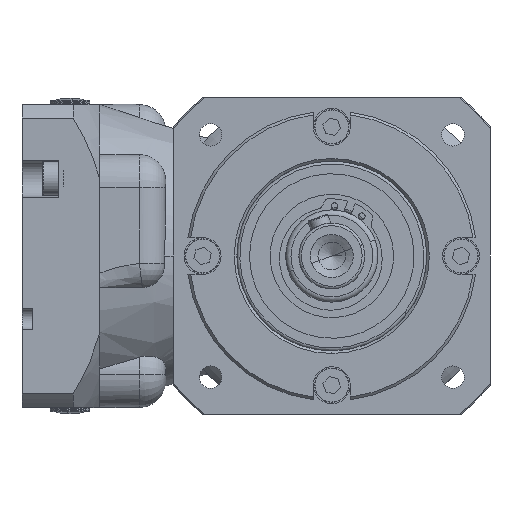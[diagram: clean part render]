
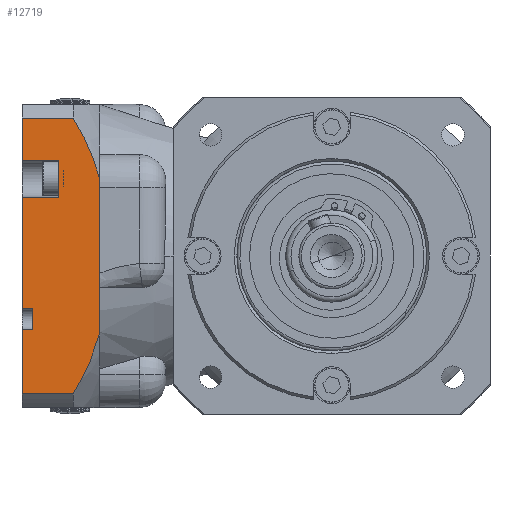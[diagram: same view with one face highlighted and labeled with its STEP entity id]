
A CAD part, left-side view. The second image highlights one B-rep face of the part: STEP entity #12719.
In plain terms, the highlighted planar face has unit normal (-1, 0, 0).
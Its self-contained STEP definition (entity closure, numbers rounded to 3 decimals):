
#9 = CARTESIAN_POINT ( 'NONE',  ( 85., 89.557, -34.242 ) ) ;
#525 = VERTEX_POINT ( 'NONE', #19852 ) ;
#667 = CARTESIAN_POINT ( 'NONE',  ( 85., 88., 57.5 ) ) ;
#1194 = DIRECTION ( 'NONE',  ( 0., 0., 1. ) ) ;
#1239 = CARTESIAN_POINT ( 'NONE',  ( 85., 90.608, 37.231 ) ) ;
#1345 = DIRECTION ( 'NONE',  ( 0., 0., 1. ) ) ;
#1815 = VERTEX_POINT ( 'NONE', #9183 ) ;
#1890 = ORIENTED_EDGE ( 'NONE', *, *, #8925, .F. ) ;
#2077 = ORIENTED_EDGE ( 'NONE', *, *, #24085, .F. ) ;
#2172 = LINE ( 'NONE', #31451, #6090 ) ;
#2273 = VECTOR ( 'NONE', #1194, 1000. ) ;
#2582 = CARTESIAN_POINT ( 'NONE',  ( 85., 117.5, 57.5 ) ) ;
#2800 = EDGE_CURVE ( 'NONE', #12796, #15440, #13451, .T. ) ;
#3004 = CARTESIAN_POINT ( 'NONE',  ( 85., 90.61, -37.237 ) ) ;
#3286 = CARTESIAN_POINT ( 'NONE',  ( 85., 89.223, -33.236 ) ) ;
#3412 = CARTESIAN_POINT ( 'NONE',  ( 85., 88.587, -31.209 ) ) ;
#4083 = VERTEX_POINT ( 'NONE', #39077 ) ;
#4698 = CARTESIAN_POINT ( 'NONE',  ( 85., 117.5, 36.375 ) ) ;
#4764 = ORIENTED_EDGE ( 'NONE', *, *, #9128, .T. ) ;
#5291 = DIRECTION ( 'NONE',  ( 0., 1., 0. ) ) ;
#5326 = B_SPLINE_CURVE_WITH_KNOTS ( 'NONE', 3,
 ( #11003, #12768, #3412, #3286, #9, #3004, #15377, #6272, #19008, #33884 ),
 .UNSPECIFIED., .F., .F.,
 ( 4, 2, 2, 2, 4 ),
 ( 0.029, 0.033, 0.036, 0.042, 0.055 ),
 .UNSPECIFIED. ) ;
#5770 = PLANE ( 'NONE',  #30649 ) ;
#5990 = CARTESIAN_POINT ( 'NONE',  ( 85., 117.5, -20. ) ) ;
#6090 = VECTOR ( 'NONE', #25091, 1000. ) ;
#6272 = CARTESIAN_POINT ( 'NONE',  ( 85., 93.885, -45.001 ) ) ;
#7769 = DIRECTION ( 'NONE',  ( 0., 0., 1. ) ) ;
#7956 = CARTESIAN_POINT ( 'NONE',  ( 85., 117.5, -28. ) ) ;
#8188 = ORIENTED_EDGE ( 'NONE', *, *, #12307, .T. ) ;
#8296 = VERTEX_POINT ( 'NONE', #37223 ) ;
#8925 = EDGE_CURVE ( 'NONE', #16452, #14253, #33893, .T. ) ;
#9128 = EDGE_CURVE ( 'NONE', #38202, #27964, #23780, .T. ) ;
#9183 = CARTESIAN_POINT ( 'NONE',  ( 85., 117.5, 52.334 ) ) ;
#9246 = VECTOR ( 'NONE', #13761, 1000. ) ;
#10624 = VERTEX_POINT ( 'NONE', #13502 ) ;
#10961 = EDGE_CURVE ( 'NONE', #525, #10624, #14520, .T. ) ;
#11003 = CARTESIAN_POINT ( 'NONE',  ( 85., 88., -29.16 ) ) ;
#11004 = CARTESIAN_POINT ( 'NONE',  ( 85., 117.5, 57.5 ) ) ;
#11786 = ORIENTED_EDGE ( 'NONE', *, *, #19668, .F. ) ;
#12005 = CARTESIAN_POINT ( 'NONE',  ( 85., 117.5, 57.5 ) ) ;
#12307 = EDGE_CURVE ( 'NONE', #4083, #14253, #27977, .T. ) ;
#12546 = CARTESIAN_POINT ( 'NONE',  ( 85., 117.5, -20. ) ) ;
#12719 = ADVANCED_FACE ( 'NONE', ( #31801 ), #5770, .F. ) ;
#12768 = CARTESIAN_POINT ( 'NONE',  ( 85., 88.285, -30.186 ) ) ;
#12772 = LINE ( 'NONE', #2582, #33100 ) ;
#12796 = VERTEX_POINT ( 'NONE', #12546 ) ;
#12908 = VECTOR ( 'NONE', #38859, 1000. ) ;
#13393 = DIRECTION ( 'NONE',  ( 0., 1., 0. ) ) ;
#13451 = LINE ( 'NONE', #5990, #28919 ) ;
#13502 = CARTESIAN_POINT ( 'NONE',  ( 85., 117.5, -28. ) ) ;
#13732 = CARTESIAN_POINT ( 'NONE',  ( 85., 88.282, 30.177 ) ) ;
#13761 = DIRECTION ( 'NONE',  ( 0., 0., 1. ) ) ;
#13925 = ORIENTED_EDGE ( 'NONE', *, *, #21133, .F. ) ;
#14253 = VERTEX_POINT ( 'NONE', #20659 ) ;
#14263 = LINE ( 'NONE', #38442, #39977 ) ;
#14520 = LINE ( 'NONE', #11004, #35831 ) ;
#14812 = VERTEX_POINT ( 'NONE', #37715 ) ;
#15308 = ORIENTED_EDGE ( 'NONE', *, *, #36470, .F. ) ;
#15377 = CARTESIAN_POINT ( 'NONE',  ( 85., 91.378, -39.202 ) ) ;
#15440 = VERTEX_POINT ( 'NONE', #38050 ) ;
#15536 = DIRECTION ( 'NONE',  ( 0., 0., 1. ) ) ;
#15782 = CARTESIAN_POINT ( 'NONE',  ( 85., 117.5, 22.375 ) ) ;
#16452 = VERTEX_POINT ( 'NONE', #29506 ) ;
#18262 = DIRECTION ( 'NONE',  ( 0., 0., -1. ) ) ;
#18513 = CARTESIAN_POINT ( 'NONE',  ( 85., 113.5, -28. ) ) ;
#18658 = VECTOR ( 'NONE', #15536, 1000. ) ;
#19008 = CARTESIAN_POINT ( 'NONE',  ( 85., 95.828, -48.738 ) ) ;
#19544 = CARTESIAN_POINT ( 'NONE',  ( 85., 88., 29.16 ) ) ;
#19668 = EDGE_CURVE ( 'NONE', #38202, #8296, #34913, .T. ) ;
#19852 = CARTESIAN_POINT ( 'NONE',  ( 85., 117.5, -52.334 ) ) ;
#20097 = CARTESIAN_POINT ( 'NONE',  ( 85., 89.551, 34.223 ) ) ;
#20659 = CARTESIAN_POINT ( 'NONE',  ( 85., 88., 29.16 ) ) ;
#21133 = EDGE_CURVE ( 'NONE', #38541, #15440, #37746, .T. ) ;
#21735 = VECTOR ( 'NONE', #1345, 1000. ) ;
#22571 = EDGE_CURVE ( 'NONE', #38541, #10624, #26946, .T. ) ;
#22894 = CARTESIAN_POINT ( 'NONE',  ( 85., 89.216, 33.213 ) ) ;
#23250 = ORIENTED_EDGE ( 'NONE', *, *, #37484, .F. ) ;
#23780 = LINE ( 'NONE', #39202, #24780 ) ;
#24085 = EDGE_CURVE ( 'NONE', #14812, #525, #14263, .T. ) ;
#24170 = EDGE_CURVE ( 'NONE', #37008, #8296, #28301, .T. ) ;
#24780 = VECTOR ( 'NONE', #5291, 1000. ) ;
#25091 = DIRECTION ( 'NONE',  ( 0., -1., 0. ) ) ;
#25130 = EDGE_LOOP ( 'NONE', ( #39619, #8188, #1890, #33526, #23250, #38827, #11786, #4764, #15308, #35549, #13925, #25177, #25851, #2077 ) ) ;
#25177 = ORIENTED_EDGE ( 'NONE', *, *, #22571, .T. ) ;
#25851 = ORIENTED_EDGE ( 'NONE', *, *, #10961, .F. ) ;
#26166 = CARTESIAN_POINT ( 'NONE',  ( 85., 93.891, 45.013 ) ) ;
#26211 = CARTESIAN_POINT ( 'NONE',  ( 85., 103.5, 22.375 ) ) ;
#26946 = LINE ( 'NONE', #7956, #12908 ) ;
#27964 = VERTEX_POINT ( 'NONE', #15782 ) ;
#27977 = LINE ( 'NONE', #667, #2273 ) ;
#28192 = CARTESIAN_POINT ( 'NONE',  ( 85., 117.5, 36.375 ) ) ;
#28301 = LINE ( 'NONE', #4698, #29257 ) ;
#28699 = CARTESIAN_POINT ( 'NONE',  ( 85., 113.5, 57.5 ) ) ;
#28919 = VECTOR ( 'NONE', #33608, 1000. ) ;
#29257 = VECTOR ( 'NONE', #33106, 1000. ) ;
#29506 = CARTESIAN_POINT ( 'NONE',  ( 85., 98.069, 52.334 ) ) ;
#30649 = AXIS2_PLACEMENT_3D ( 'NONE', #12005, #40200, #18262 ) ;
#30925 = CARTESIAN_POINT ( 'NONE',  ( 85., 117.5, 57.5 ) ) ;
#31451 = CARTESIAN_POINT ( 'NONE',  ( 85., 68., 52.334 ) ) ;
#31698 = LINE ( 'NONE', #30925, #18658 ) ;
#31801 = FACE_OUTER_BOUND ( 'NONE', #25130, .T. ) ;
#31837 = CARTESIAN_POINT ( 'NONE',  ( 85., 91.378, 39.203 ) ) ;
#31975 = CARTESIAN_POINT ( 'NONE',  ( 85., 88.582, 31.191 ) ) ;
#32284 = CARTESIAN_POINT ( 'NONE',  ( 85., 103.5, 57.5 ) ) ;
#32352 = EDGE_CURVE ( 'NONE', #1815, #16452, #2172, .T. ) ;
#33100 = VECTOR ( 'NONE', #33605, 1000. ) ;
#33106 = DIRECTION ( 'NONE',  ( 0., -1., 0. ) ) ;
#33526 = ORIENTED_EDGE ( 'NONE', *, *, #32352, .F. ) ;
#33605 = DIRECTION ( 'NONE',  ( 0., 0., 1. ) ) ;
#33608 = DIRECTION ( 'NONE',  ( 0., -1., 0. ) ) ;
#33884 = CARTESIAN_POINT ( 'NONE',  ( 85., 98.069, -52.334 ) ) ;
#33893 = B_SPLINE_CURVE_WITH_KNOTS ( 'NONE', 3,
 ( #35511, #38384, #26166, #31837, #1239, #20097, #22894, #31975, #13732, #19544 ),
 .UNSPECIFIED., .F., .F.,
 ( 4, 2, 2, 2, 4 ),
 ( 0.463, 0.475, 0.481, 0.485, 0.488 ),
 .UNSPECIFIED. ) ;
#34913 = LINE ( 'NONE', #32284, #9246 ) ;
#35511 = CARTESIAN_POINT ( 'NONE',  ( 85., 98.069, 52.334 ) ) ;
#35549 = ORIENTED_EDGE ( 'NONE', *, *, #2800, .T. ) ;
#35831 = VECTOR ( 'NONE', #7769, 1000. ) ;
#36470 = EDGE_CURVE ( 'NONE', #12796, #27964, #31698, .T. ) ;
#37008 = VERTEX_POINT ( 'NONE', #28192 ) ;
#37223 = CARTESIAN_POINT ( 'NONE',  ( 85., 103.5, 36.375 ) ) ;
#37484 = EDGE_CURVE ( 'NONE', #37008, #1815, #12772, .T. ) ;
#37715 = CARTESIAN_POINT ( 'NONE',  ( 85., 98.069, -52.334 ) ) ;
#37746 = LINE ( 'NONE', #28699, #21735 ) ;
#38050 = CARTESIAN_POINT ( 'NONE',  ( 85., 113.5, -20. ) ) ;
#38202 = VERTEX_POINT ( 'NONE', #26211 ) ;
#38384 = CARTESIAN_POINT ( 'NONE',  ( 85., 95.834, 48.749 ) ) ;
#38442 = CARTESIAN_POINT ( 'NONE',  ( 85., 68., -52.334 ) ) ;
#38541 = VERTEX_POINT ( 'NONE', #18513 ) ;
#38827 = ORIENTED_EDGE ( 'NONE', *, *, #24170, .T. ) ;
#38859 = DIRECTION ( 'NONE',  ( 0., 1., 0. ) ) ;
#38916 = EDGE_CURVE ( 'NONE', #4083, #14812, #5326, .T. ) ;
#39077 = CARTESIAN_POINT ( 'NONE',  ( 85., 88., -29.16 ) ) ;
#39202 = CARTESIAN_POINT ( 'NONE',  ( 85., 117.5, 22.375 ) ) ;
#39619 = ORIENTED_EDGE ( 'NONE', *, *, #38916, .F. ) ;
#39977 = VECTOR ( 'NONE', #13393, 1000. ) ;
#40200 = DIRECTION ( 'NONE',  ( 1., 0., 0. ) ) ;
